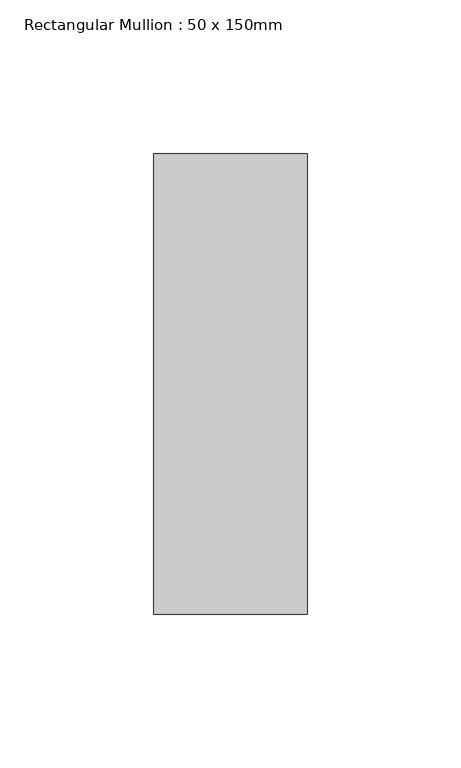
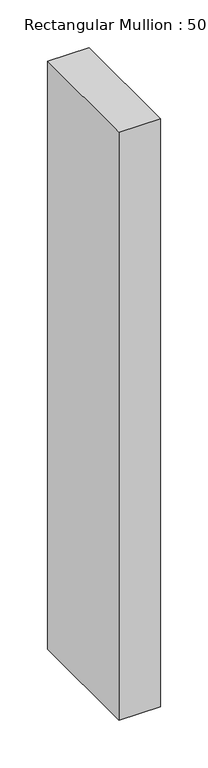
"""IFC4 building model written with IfcOpenShell, lengths in millimetres: member geometry, Rectangular Mullion : 50 x 150mm."""

from ifc_helpers import new_model, si_unit, frame, origin, place, context, project, spatial, polyline, outline, extrude, source, transform, mapped, element, save


def rectangular_mullion_50_x_150mm_8999202d(model_context):
    return source(origin(), model_context, "Body", "SweptSolid", [
        extrude(outline(polyline([(0.0, 75.0), (0.0, -75.0), (-50.0, -75.0), (-50.0, 75.0), (0.0, 75.0)])), frame((0.0, 0.0, -752.3164071), z_axis=(0.0, 0.0, 1.0), x_axis=(1.0, 0.0, 0.0)), (0.0, 0.0, 1.0), 752.3164071),
    ])


if __name__ == "__main__":
    model = new_model("IFC4")
    model_context = context("Model", 3, world=origin())
    ifc_project = project(units=[si_unit("LENGTHUNIT", "METRE", prefix="MILLI")], contexts=[model_context])
    site = spatial("IfcSite", under=ifc_project)
    building = spatial("IfcBuilding", under=site)
    placement = place(None, origin())
    rectangular_mullion_50_x_150mm_shape = rectangular_mullion_50_x_150mm_8999202d(model_context)
    element("IfcMember", 1, ObjectType="Rectangular Mullion : 50 x 150mm", at=placement, inside=building, context=model_context, shape_type="MappedRepresentation", body=[
        mapped(rectangular_mullion_50_x_150mm_shape, transform((0.0, 0.0, 0.0), x_axis=(1.0, 0.0, 0.0), y_axis=(0.0, 1.0, 0.0), z_axis=(0.0, 0.0, 1.0))),
    ])
    save(model, "model.ifc")
